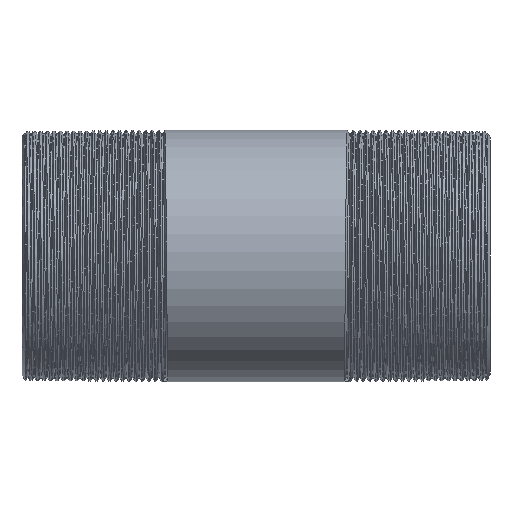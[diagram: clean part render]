
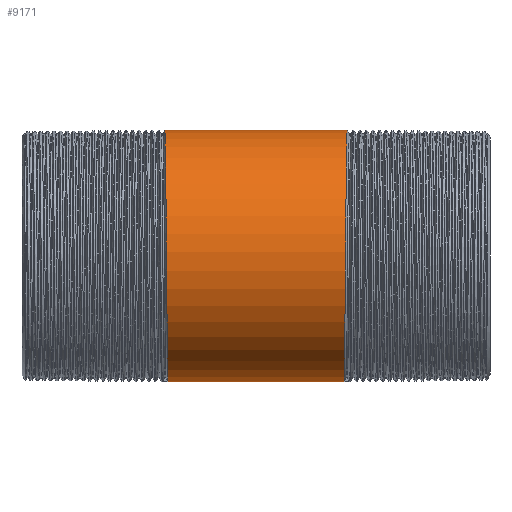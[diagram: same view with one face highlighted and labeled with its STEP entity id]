
A CAD part, front view. The second image highlights one B-rep face of the part: STEP entity #9171.
In plain terms, the highlighted cylindrical face has radius 13.45 mm (diameter 26.9 mm), a partial arc.
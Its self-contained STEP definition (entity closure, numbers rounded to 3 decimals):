
#618 = VECTOR ( 'NONE', #12820, 1000. ) ;
#888 = ORIENTED_EDGE ( 'NONE', *, *, #12277, .F. ) ;
#1696 = CARTESIAN_POINT ( 'NONE',  ( -9.563, -15.531, 0. ) ) ;
#2462 = CARTESIAN_POINT ( 'NONE',  ( 9.621, -11.648, 6.725 ) ) ;
#2893 = CARTESIAN_POINT ( 'NONE',  ( -9.504, -11.648, -6.725 ) ) ;
#3298 = CARTESIAN_POINT ( 'NONE',  ( -149.494, 0., -13.45 ) ) ;
#3578 = CARTESIAN_POINT ( 'NONE',  ( 9.388, 0., -13.45 ) ) ;
#3869 = CARTESIAN_POINT ( 'NONE',  ( -9.388, 0., -13.45 ) ) ;
#3921 = VERTEX_POINT ( 'NONE', #8616 ) ;
#4478 = DIRECTION ( 'NONE',  ( -1., 0., 0. ) ) ;
#4483 =( BOUNDED_CURVE ( )  B_SPLINE_CURVE ( 2, ( #3869, #13767, #2893, #1696, #12355, #7725, #13841 ),
 .UNSPECIFIED., .F., .T. ) 
 B_SPLINE_CURVE_WITH_KNOTS ( ( 3, 2, 2, 3 ),
 ( 0., 0.007, 0.014, 0.022 ),
 .UNSPECIFIED. ) 
 CURVE ( )  GEOMETRIC_REPRESENTATION_ITEM ( )  RATIONAL_B_SPLINE_CURVE ( ( 1., 0.866, 1., 0.866, 1., 0.866, 1. ) ) 
 REPRESENTATION_ITEM ( '' )  );
#4680 =( BOUNDED_CURVE ( )  B_SPLINE_CURVE ( 2, ( #3578, #12073, #8495, #13338, #2462, #13717, #5154 ),
 .UNSPECIFIED., .F., .T. ) 
 B_SPLINE_CURVE_WITH_KNOTS ( ( 3, 2, 2, 3 ),
 ( 0., 0.007, 0.014, 0.022 ),
 .UNSPECIFIED. ) 
 CURVE ( )  GEOMETRIC_REPRESENTATION_ITEM ( )  RATIONAL_B_SPLINE_CURVE ( ( 1., 0.866, 1., 0.866, 1., 0.866, 1. ) ) 
 REPRESENTATION_ITEM ( '' )  );
#5154 = CARTESIAN_POINT ( 'NONE',  ( 9.738, 0., 13.45 ) ) ;
#5435 = VERTEX_POINT ( 'NONE', #9707 ) ;
#5487 = LINE ( 'NONE', #10234, #14090 ) ;
#6739 = EDGE_CURVE ( 'NONE', #5435, #13898, #5487, .T. ) ;
#7725 = CARTESIAN_POINT ( 'NONE',  ( -9.679, -7.765, 13.45 ) ) ;
#7966 = DIRECTION ( 'NONE',  ( 0., 0., 1. ) ) ;
#8112 = ORIENTED_EDGE ( 'NONE', *, *, #14807, .F. ) ;
#8495 = CARTESIAN_POINT ( 'NONE',  ( 9.504, -11.648, -6.725 ) ) ;
#8546 = ORIENTED_EDGE ( 'NONE', *, *, #10415, .T. ) ;
#8616 = CARTESIAN_POINT ( 'NONE',  ( 9.388, 0., -13.45 ) ) ;
#9160 = LINE ( 'NONE', #3298, #618 ) ;
#9171 = ADVANCED_FACE ( 'NONE', ( #12657 ), #15278, .T. ) ;
#9707 = CARTESIAN_POINT ( 'NONE',  ( 9.738, 0., 13.45 ) ) ;
#10234 = CARTESIAN_POINT ( 'NONE',  ( -149.494, 0., 13.45 ) ) ;
#10415 = EDGE_CURVE ( 'NONE', #3921, #5435, #4680, .T. ) ;
#10428 = ORIENTED_EDGE ( 'NONE', *, *, #6739, .T. ) ;
#11672 = DIRECTION ( 'NONE',  ( -1., 0., 0. ) ) ;
#11782 = CARTESIAN_POINT ( 'NONE',  ( -149.494, 0., 0. ) ) ;
#11938 = AXIS2_PLACEMENT_3D ( 'NONE', #11782, #4478, #7966 ) ;
#12073 = CARTESIAN_POINT ( 'NONE',  ( 9.446, -7.765, -13.45 ) ) ;
#12277 = EDGE_CURVE ( 'NONE', #13021, #13898, #4483, .T. ) ;
#12355 = CARTESIAN_POINT ( 'NONE',  ( -9.621, -11.648, 6.725 ) ) ;
#12657 = FACE_OUTER_BOUND ( 'NONE', #13469, .T. ) ;
#12820 = DIRECTION ( 'NONE',  ( -1., 0., 0. ) ) ;
#13021 = VERTEX_POINT ( 'NONE', #14511 ) ;
#13338 = CARTESIAN_POINT ( 'NONE',  ( 9.563, -15.531, 0. ) ) ;
#13469 = EDGE_LOOP ( 'NONE', ( #8112, #8546, #10428, #888 ) ) ;
#13717 = CARTESIAN_POINT ( 'NONE',  ( 9.679, -7.765, 13.45 ) ) ;
#13767 = CARTESIAN_POINT ( 'NONE',  ( -9.446, -7.765, -13.45 ) ) ;
#13841 = CARTESIAN_POINT ( 'NONE',  ( -9.738, 0., 13.45 ) ) ;
#13898 = VERTEX_POINT ( 'NONE', #14922 ) ;
#14090 = VECTOR ( 'NONE', #11672, 1000. ) ;
#14511 = CARTESIAN_POINT ( 'NONE',  ( -9.388, 0., -13.45 ) ) ;
#14807 = EDGE_CURVE ( 'NONE', #3921, #13021, #9160, .T. ) ;
#14922 = CARTESIAN_POINT ( 'NONE',  ( -9.738, 0., 13.45 ) ) ;
#15278 = CYLINDRICAL_SURFACE ( 'NONE', #11938, 13.45 ) ;
